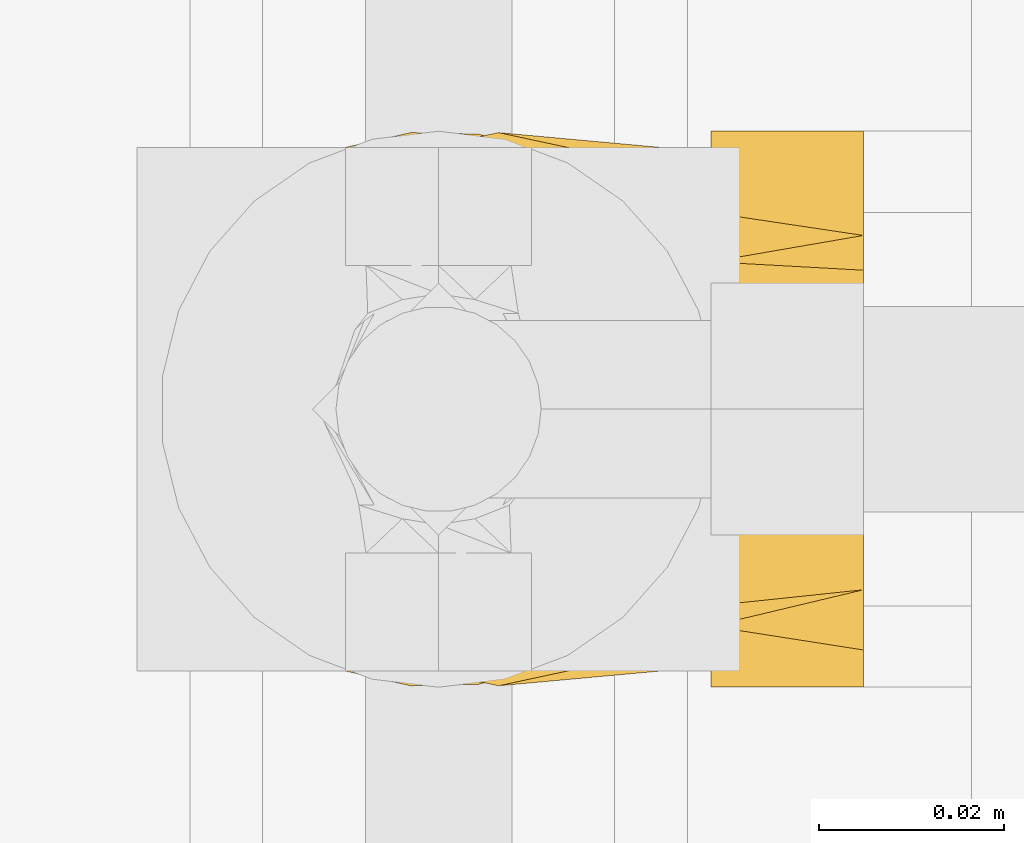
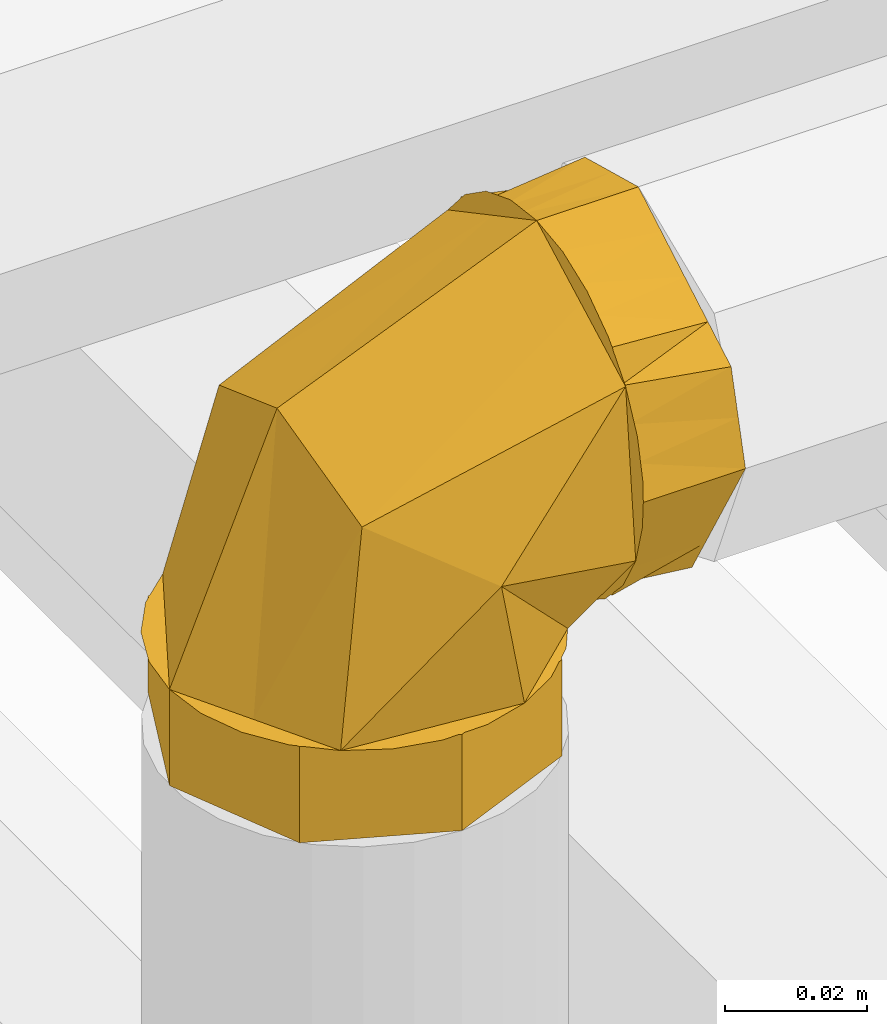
# One storey, part 148 of 652: 1 covering.
"""IFC2X3 building model written with IfcOpenShell, lengths in millimetres."""

from ifc_helpers import new_model, entity, si_unit, converted_unit, direction, frame, origin, place, context, subcontext, project, spatial, face_set, surface_model, material, type_object, element, save


model = new_model("IFC2X3")

# Units and contexts
model_context = context("Model", 3, precision=0.01, world=frame((0.0, 0.0, 308426.39999999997)), true_north=direction((6.123233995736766e-17, 1.0)))
plan_context = context("Plan", 3, precision=0.01, world=frame((0.0, 0.0, 308426.39999999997)), true_north=direction((6.123233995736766e-17, 1.0)))
body_context = subcontext(model_context, "Body", "Model", "MODEL_VIEW")
ifc_project = project(units=[si_unit("LENGTHUNIT", "METRE", prefix="MILLI"), si_unit("AREAUNIT", "SQUARE_METRE"), si_unit("VOLUMEUNIT", "CUBIC_METRE"), converted_unit("PLANEANGLEUNIT", "DEGREE", entity("IfcPlaneAngleMeasure", 0.017453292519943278), si_unit("PLANEANGLEUNIT", "RADIAN"), dimensions=[0, 0, 0, 0, 0, 0, 0])], contexts=[model_context, plan_context])

# Site, building, storey
site_placement = place(None, origin())
site = spatial("IfcSite", under=ifc_project, at=site_placement, Name="Default", CompositionType="ELEMENT")
building_placement = place(site_placement, origin())
building = spatial("IfcBuilding", under=site, at=building_placement, CompositionType="ELEMENT")
storey_placement = place(building_placement, frame((0.0, 0.0, 1730.6999999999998)))
storey = spatial("IfcBuildingStorey", under=building, at=storey_placement, Name="EG_Produktion_FFB", CompositionType="ELEMENT", Elevation=1730.6999999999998)

# Covering
ifc_material = material(Name="Dämmung - Armaflex-Schlauch")
covering_type = type_object("IfcCoveringType", Name="Rohrdämmung außen:Armaflex-Schlauch", PredefinedType="INSULATION")
covering_placement = place(storey_placement, frame((15058.292227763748, 59818.2922277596, 4303.982749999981)))
element("IfcCovering", 1, at=covering_placement, inside=storey, type_object=covering_type, material=ifc_material, Name="Rohrdämmung außen:Armaflex-Schlauch", ObjectType="Rohrdämmung außen:Armaflex-Schlauch", PredefinedType="INSULATION", context=body_context, shape_type="SurfaceModel", body=[
    surface_model("IfcFaceBasedSurfaceModel", [(61.21227223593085, 25.687212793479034, 16.51275000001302), (58.87053868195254, 18.70981950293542, 16.51275000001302), (54.90616939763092, 12.508891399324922, 16.51275000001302), (49.55598588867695, 7.4548564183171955, 16.512750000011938), (43.139594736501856, 3.8496299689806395, 16.512750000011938), (36.0402951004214, 1.9085792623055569, 16.512750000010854), (28.682181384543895, 1.7476578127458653, 16.512750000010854), (21.504808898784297, 3.37647866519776, 16.51275000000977), (14.936935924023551, 6.697740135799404, 16.51275000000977), (9.370910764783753, 11.513038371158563, 16.512750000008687), (5.139233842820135, 17.53471949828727, 16.512750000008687), (2.4946949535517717, 24.40306334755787, 16.512750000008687), (1.5952722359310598, 31.70777223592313, 16.512750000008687), (2.4946949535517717, 39.01248112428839, 16.512750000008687), (5.139233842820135, 45.880824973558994, 16.512750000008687), (9.370910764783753, 51.902506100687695, 16.512750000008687), (14.936935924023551, 56.71780433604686, 16.51275000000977), (21.504808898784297, 60.0390658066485, 16.51275000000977), (28.682181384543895, 61.6678866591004, 16.512750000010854), (36.0402951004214, 61.50696520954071, 16.512750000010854), (43.139594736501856, 59.565914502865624, 16.512750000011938), (49.55598588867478, 55.96068805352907, 16.512750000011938), (54.90616939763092, 50.906653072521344, 16.51275000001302), (58.87053868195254, 44.70572496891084, 16.51275000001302), (61.21227223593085, 37.728331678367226, 16.51275000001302), (61.21227223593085, 44.70572496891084, 18.85448355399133), (61.21227223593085, 50.906653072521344, 22.81885283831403), (61.21227223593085, 55.96068805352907, 28.169036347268), (61.21227223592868, 59.565914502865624, 34.58542749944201), (61.21227223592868, 61.50696520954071, 41.68472713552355), (61.21227223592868, 61.6678866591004, 49.04284085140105), (61.21227223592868, 60.0390658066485, 56.22021333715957), (61.21227223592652, 56.71780433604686, 62.78808631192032), (61.21227223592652, 51.902506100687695, 68.35411147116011), (61.21227223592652, 45.880824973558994, 72.58578839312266), (61.21227223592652, 39.01248112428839, 75.2303272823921), (61.21227223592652, 31.70777223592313, 76.1297500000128), (61.21227223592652, 24.40306334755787, 75.2303272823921), (61.21227223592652, 17.53471949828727, 72.58578839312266), (61.21227223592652, 11.513038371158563, 68.35411147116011), (61.21227223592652, 6.697740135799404, 62.78808631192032), (61.21227223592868, 3.37647866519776, 56.22021333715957), (61.21227223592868, 1.7476578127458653, 49.04284085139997), (61.21227223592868, 1.9085792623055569, 41.68472713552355), (61.21227223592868, 3.8496299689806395, 34.58542749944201), (61.21227223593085, 7.4548564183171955, 28.169036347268), (61.21227223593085, 12.508891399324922, 22.81885283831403), (61.21227223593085, 18.70981950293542, 18.85448355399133), (52.31799562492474, 7.53514040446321, 23.87767480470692), (61.21280153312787, 14.96724489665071, 25.383396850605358), (52.34125001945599, 14.96724489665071, 16.51300805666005), (21.254775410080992, 11.61396120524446, 49.68365777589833), (8.143947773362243, 19.43208864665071, 16.51300805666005), (38.20955446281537, 1.7494470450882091, 39.51509240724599), (61.21280153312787, 5.274813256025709, 48.68662561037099), (19.057235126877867, 31.70575808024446, 58.66857446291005), (61.21280153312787, 19.20419558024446, 69.45919488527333), (29.038021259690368, 5.274813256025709, 16.51300805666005), (52.31799562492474, 55.88102663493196, 23.87767480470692), (52.34125001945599, 48.44892214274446, 16.51300805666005), (21.254775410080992, 51.80220583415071, 49.68365777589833), (8.143947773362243, 43.98407839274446, 16.51300805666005), (61.21280153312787, 48.64890993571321, 25.549084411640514), (38.20955446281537, 61.66671999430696, 39.51509240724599), (61.21280153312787, 44.21197145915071, 69.45919488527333), (29.038021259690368, 58.14135378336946, 16.51300805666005), (61.21280153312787, 58.14135378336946, 48.68662561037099), (8.210082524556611, 15.738207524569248, 0.0), (6.005145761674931, 21.06139576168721, 0.0), (3.8002089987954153, 26.384583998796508, 0.0), (1.5952722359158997, 31.70777223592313, 0.0), (4.43806438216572, 38.57087959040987, 0.0), (6.005145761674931, 42.35414871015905, 0.0), (8.210082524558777, 47.677336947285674, 0.0), (10.415019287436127, 53.000525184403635, 0.0), (15.738207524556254, 55.205461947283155, 0.0), (21.061395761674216, 57.410398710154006, 0.0), (26.384583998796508, 59.615335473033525, 0.0), (31.707772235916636, 61.82027223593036, 0.0), (38.570879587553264, 58.97748009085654, 0.0), (42.35414871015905, 57.410398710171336, 0.0), (47.67733694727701, 55.205461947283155, 0.0), (53.00052518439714, 53.000525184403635, 0.0), (55.20546194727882, 47.677336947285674, 0.0), (57.41039871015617, 42.35414871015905, 0.0), (59.615335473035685, 37.03096047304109, 0.0), (61.82027223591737, 31.70777223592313, 0.0), (58.977480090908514, 24.84466488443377, 0.0), (57.41039871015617, 21.061395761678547, 0.0), (55.20546194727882, 15.738207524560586, 0.0), (53.00052518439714, 10.415019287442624, 0.0), (47.67733694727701, 8.210082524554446, 0.0), (42.354148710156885, 6.005145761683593, 0.0), (37.030960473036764, 3.800208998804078, 0.0), (31.707772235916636, 1.5952722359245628, 0.0), (24.844664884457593, 4.438064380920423, 0.0), (21.06139576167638, 6.005145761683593, 0.0), (15.738207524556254, 8.21008252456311, 0.0), (10.415019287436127, 10.415019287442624, 0.0), (31.707772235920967, 61.82027223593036, 16.512750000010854), (26.38458399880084, 59.61533547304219, 16.51275000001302), (21.061395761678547, 57.410398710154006, 16.51275000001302), (15.738207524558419, 55.205461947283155, 16.512750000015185), (10.415019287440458, 53.000525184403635, 16.512750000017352), (7.2808565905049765, 45.433987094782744, 16.512750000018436), (4.438064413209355, 38.57087966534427, 16.512750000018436), (1.5952722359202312, 31.70777223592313, 16.512750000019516), (3.8002089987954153, 26.38458399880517, 16.512750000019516), (6.005145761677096, 21.06139576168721, 16.512750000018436), (8.210082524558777, 15.738207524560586, 16.512750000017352), (10.415019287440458, 10.415019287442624, 16.512750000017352), (17.981557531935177, 7.280856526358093, 16.512750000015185), (24.844664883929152, 4.43806438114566, 16.51275000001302), (31.707772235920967, 1.5952722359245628, 16.512750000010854), (37.03096047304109, 3.800208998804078, 16.51275000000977), (42.35414871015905, 6.005145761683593, 16.512750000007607), (47.67733694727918, 8.210082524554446, 16.51275000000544), (53.000525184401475, 10.415019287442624, 16.512750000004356), (56.134687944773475, 17.981557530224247, 16.512750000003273), (58.97748009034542, 24.844664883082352, 16.512750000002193), (61.8202722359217, 31.70777223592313, 16.512750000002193), (59.61533547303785, 37.03096047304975, 16.512750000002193), (57.41039871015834, 42.35414871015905, 16.512750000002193), (55.20546194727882, 47.677336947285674, 16.512750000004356), (53.000525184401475, 53.000525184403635, 16.512750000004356), (45.433986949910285, 56.13468794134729, 16.512750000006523), (38.57087959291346, 58.97748008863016, 16.512750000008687), (77.72502223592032, 31.70777223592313, 76.1297500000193), (77.72502223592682, 25.18822474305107, 72.36568750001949), (77.72502223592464, 18.668677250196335, 68.60162500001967), (77.72502223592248, 12.149129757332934, 64.83756250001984), (77.72502223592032, 5.629582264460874, 61.07350000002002), (77.72502223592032, 3.6124272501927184, 53.54537500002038), (77.72502223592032, 1.5952722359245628, 46.01725000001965), (77.72502223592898, 5.359334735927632, 39.497702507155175), (77.72502223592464, 9.12339723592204, 32.978155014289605), (77.72502223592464, 12.887459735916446, 26.45860752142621), (77.72502223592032, 16.651522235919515, 19.939060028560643), (77.72502223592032, 24.179647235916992, 17.921905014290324), (77.72502223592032, 31.70777223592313, 15.904750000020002), (77.72502223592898, 38.227319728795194, 19.668812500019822), (77.72502223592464, 44.74686722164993, 23.432875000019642), (77.72502223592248, 51.26641471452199, 27.196937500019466), (77.72502223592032, 57.78596220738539, 30.961000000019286), (77.72502223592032, 59.803117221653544, 38.48912500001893), (77.72502223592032, 61.8202722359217, 46.01725000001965), (77.72502223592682, 58.05620973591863, 52.53679749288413), (77.72502223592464, 54.292147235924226, 59.056344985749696), (77.72502223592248, 50.528084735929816, 65.57589247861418), (77.72502223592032, 46.764022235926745, 72.09543997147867), (77.72502223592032, 39.23589723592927, 74.11259498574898), (61.21227223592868, 31.70777223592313, 76.1297500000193), (61.21227223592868, 37.03096047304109, 73.92481323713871), (61.21227223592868, 42.35414871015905, 71.7198764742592), (61.21227223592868, 47.677336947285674, 69.51493971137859), (61.21227223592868, 53.000525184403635, 67.31000294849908), (61.21227223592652, 55.20546194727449, 61.98681471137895), (61.21227223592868, 57.41039871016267, 56.66362647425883), (61.21227223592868, 59.61533547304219, 51.3404382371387), (61.21227223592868, 61.8202722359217, 46.01725000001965), (61.21227223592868, 59.61533547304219, 40.69406176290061), (61.21227223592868, 57.41039871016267, 35.37087352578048), (61.21227223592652, 55.20546194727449, 30.047685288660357), (61.21227223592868, 53.000525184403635, 24.724497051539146), (61.21227223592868, 47.677336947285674, 22.519560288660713), (61.21227223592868, 42.35414871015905, 20.314623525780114), (61.21227223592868, 37.03096047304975, 18.109686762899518), (61.21227223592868, 31.70777223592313, 15.904750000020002), (61.21227223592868, 26.384583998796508, 18.109686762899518), (61.21227223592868, 21.06139576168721, 20.314623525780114), (61.21227223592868, 15.738207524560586, 22.51956028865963), (61.21227223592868, 10.415019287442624, 24.724497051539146), (61.21227223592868, 8.21008252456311, 30.047685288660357), (61.21227223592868, 6.005145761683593, 35.37087352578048), (61.21227223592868, 3.800208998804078, 40.69406176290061), (61.21227223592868, 1.5952722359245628, 46.01725000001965), (61.21227223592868, 3.800208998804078, 51.34043823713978), (61.21227223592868, 6.005145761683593, 56.66362647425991), (61.21227223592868, 8.21008252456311, 61.986814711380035), (61.21227223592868, 10.415019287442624, 67.31000294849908), (61.21227223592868, 15.738207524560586, 69.51493971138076), (61.21227223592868, 21.06139576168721, 71.71987647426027), (61.21227223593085, 26.38458399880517, 73.92481323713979)], [face_set([[[0, 1, 2, 3, 4, 5, 6, 7, 8, 9, 10, 11, 12, 13, 14, 15, 16, 17, 18, 19, 20, 21, 22, 23]], [[24, 25, 26, 27, 28, 29, 30, 31, 32, 33, 34, 35, 36, 37, 38, 39, 40, 41, 42, 43, 44, 45, 46, 47]], [[48, 0, 49]], [[50, 48, 4]], [[51, 52, 8]], [[53, 4, 48]], [[53, 44, 54, 40]], [[48, 49, 44]], [[40, 51, 53]], [[55, 51, 56]], [[44, 53, 48]], [[56, 36, 55]], [[55, 52, 51]], [[48, 50, 0]], [[55, 12, 52]], [[53, 8, 57, 4]], [[8, 53, 51]], [[51, 40, 56]], [[58, 59, 20]], [[60, 61, 55]], [[24, 58, 62]], [[58, 20, 63]], [[16, 60, 63]], [[55, 64, 60]], [[24, 59, 58]], [[65, 16, 63, 20]], [[28, 58, 63]], [[58, 28, 62]], [[61, 60, 16]], [[61, 12, 55]], [[63, 32, 66, 28]], [[32, 63, 60]], [[64, 55, 36]], [[64, 32, 60]]]), face_set([[[67, 68, 69, 70, 71, 72, 73, 74, 75, 76, 77, 78, 79, 80, 81, 82, 83, 84, 85, 86, 87, 88, 89, 90, 91, 92, 93, 94, 95, 96, 97, 98]], [[99, 100, 101, 102, 103, 104, 105, 106, 107, 108, 109, 110, 111, 112, 113, 114, 115, 116, 117, 118, 119, 120, 121, 122, 123, 124, 125, 126]], [[105, 104, 103, 74, 73, 72, 71, 70, 106]], [[74, 103, 102, 101, 100, 99, 78, 77, 76, 75]], [[126, 125, 124, 82, 81, 80, 79, 78, 99]], [[82, 124, 123, 122, 121, 120, 86, 85, 84, 83]], [[119, 118, 117, 90, 89, 88, 87, 86, 120]], [[90, 117, 116, 115, 114, 113, 94, 93, 92, 91]], [[112, 111, 110, 98, 97, 96, 95, 94, 113]], [[98, 110, 109, 108, 107, 106, 70, 69, 68, 67]]]), face_set([[[127, 128, 129, 130, 131, 132, 133, 134, 135, 136, 137, 138, 139, 140, 141, 142, 143, 144, 145, 146, 147, 148, 149, 150]], [[151, 152, 153, 154, 155, 156, 157, 158, 159, 160, 161, 162, 163, 164, 165, 166, 167, 168, 169, 170, 171, 172, 173, 174, 175, 176, 177, 178, 179, 180, 181, 182]], [[170, 136, 171]], [[133, 174, 134]], [[174, 173, 134]], [[138, 169, 168]], [[168, 167, 139]], [[136, 170, 137]], [[135, 173, 172]], [[133, 175, 174]], [[173, 135, 134]], [[139, 138, 168]], [[172, 171, 136]], [[170, 169, 137]], [[138, 137, 169]], [[135, 172, 136]], [[178, 130, 179]], [[127, 182, 128]], [[182, 181, 128]], [[132, 177, 176]], [[176, 175, 133]], [[130, 178, 131]], [[129, 181, 180]], [[127, 151, 182]], [[181, 129, 128]], [[133, 132, 176]], [[180, 179, 130]], [[178, 177, 131]], [[132, 131, 177]], [[129, 180, 130]], [[154, 148, 155]], [[145, 158, 146]], [[158, 157, 146]], [[150, 153, 152]], [[152, 151, 127]], [[148, 154, 149]], [[147, 157, 156]], [[145, 159, 158]], [[157, 147, 146]], [[127, 150, 152]], [[156, 155, 148]], [[154, 153, 149]], [[150, 149, 153]], [[147, 156, 148]], [[162, 142, 163]], [[139, 166, 140]], [[166, 165, 140]], [[144, 161, 160]], [[160, 159, 145]], [[142, 162, 143]], [[141, 165, 164]], [[139, 167, 166]], [[165, 141, 140]], [[145, 144, 160]], [[164, 163, 142]], [[162, 161, 143]], [[144, 143, 161]], [[141, 164, 142]]])]),
])

save(model, "model.ifc")
